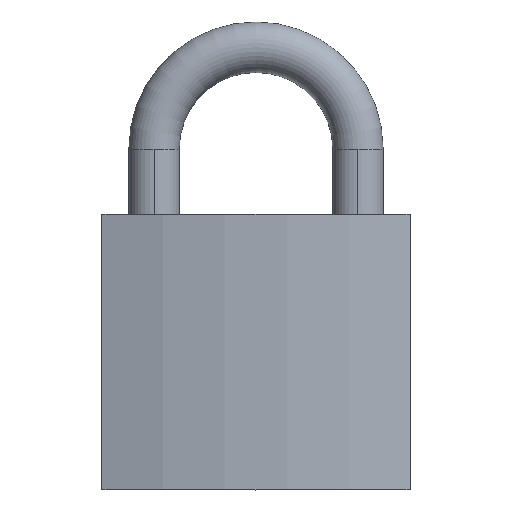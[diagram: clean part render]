
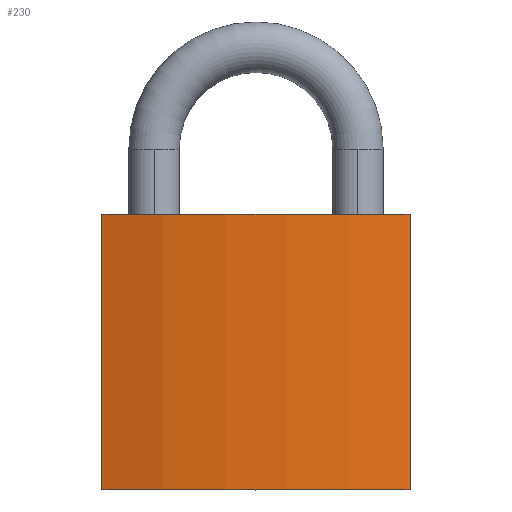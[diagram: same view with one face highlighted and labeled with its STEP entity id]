
A CAD part, top view. The second image highlights one B-rep face of the part: STEP entity #230.
In plain terms, the highlighted cylindrical face has radius 48.819 mm (diameter 97.638 mm), a partial arc.
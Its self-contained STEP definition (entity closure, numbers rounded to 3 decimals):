
#48 = AXIS2_PLACEMENT_3D ( 'NONE', #409, #389, #388 ) ;
#49 = AXIS2_PLACEMENT_3D ( 'NONE', #588, #587, #249 ) ;
#69 = AXIS2_PLACEMENT_3D ( 'NONE', #142, #141, #150 ) ;
#141 = DIRECTION ( 'NONE',  ( 0., -1., 0. ) ) ;
#142 = CARTESIAN_POINT ( 'NONE',  ( 0., 26.2, -42.819 ) ) ;
#150 = DIRECTION ( 'NONE',  ( 0., 0., -1. ) ) ;
#230 = ADVANCED_FACE ( 'NONE', ( #354 ), #349, .T. ) ;
#249 = DIRECTION ( 'NONE',  ( 0., 0., 1. ) ) ;
#308 = VECTOR ( 'NONE', #568, 1000. ) ;
#310 = VECTOR ( 'NONE', #573, 1000. ) ;
#311 = LINE ( 'NONE', #565, #308 ) ;
#312 = LINE ( 'NONE', #391, #310 ) ;
#320 = CIRCLE ( 'NONE', #48, 48.819 ) ;
#331 = CIRCLE ( 'NONE', #49, 48.819 ) ;
#349 = CYLINDRICAL_SURFACE ( 'NONE', #69, 48.819 ) ;
#354 = FACE_OUTER_BOUND ( 'NONE', #674, .T. ) ;
#388 = DIRECTION ( 'NONE',  ( 0., 0., 1. ) ) ;
#389 = DIRECTION ( 'NONE',  ( 0., 1., 0. ) ) ;
#391 = CARTESIAN_POINT ( 'NONE',  ( 14.65, 26.2, 3.75 ) ) ;
#409 = CARTESIAN_POINT ( 'NONE',  ( 0., 26.2, -42.819 ) ) ;
#454 = CARTESIAN_POINT ( 'NONE',  ( 14.65, 26.2, 3.75 ) ) ;
#457 = CARTESIAN_POINT ( 'NONE',  ( -14.65, 0., 3.75 ) ) ;
#483 = CARTESIAN_POINT ( 'NONE',  ( -14.65, 26.2, 3.75 ) ) ;
#488 = CARTESIAN_POINT ( 'NONE',  ( 14.65, 0., 3.75 ) ) ;
#525 = EDGE_CURVE ( 'NONE', #684, #823, #331, .T. ) ;
#528 = EDGE_CURVE ( 'NONE', #793, #687, #320, .T. ) ;
#533 = EDGE_CURVE ( 'NONE', #687, #823, #312, .T. ) ;
#534 = EDGE_CURVE ( 'NONE', #793, #684, #311, .T. ) ;
#565 = CARTESIAN_POINT ( 'NONE',  ( -14.65, 26.2, 3.75 ) ) ;
#568 = DIRECTION ( 'NONE',  ( 0., -1., 0. ) ) ;
#573 = DIRECTION ( 'NONE',  ( 0., -1., 0. ) ) ;
#587 = DIRECTION ( 'NONE',  ( 0., 1., 0. ) ) ;
#588 = CARTESIAN_POINT ( 'NONE',  ( 0., 0., -42.819 ) ) ;
#667 = ORIENTED_EDGE ( 'NONE', *, *, #525, .T. ) ;
#674 = EDGE_LOOP ( 'NONE', ( #667, #697, #804, #797 ) ) ;
#684 = VERTEX_POINT ( 'NONE', #457 ) ;
#687 = VERTEX_POINT ( 'NONE', #454 ) ;
#697 = ORIENTED_EDGE ( 'NONE', *, *, #533, .F. ) ;
#793 = VERTEX_POINT ( 'NONE', #483 ) ;
#797 = ORIENTED_EDGE ( 'NONE', *, *, #534, .T. ) ;
#804 = ORIENTED_EDGE ( 'NONE', *, *, #528, .F. ) ;
#823 = VERTEX_POINT ( 'NONE', #488 ) ;
